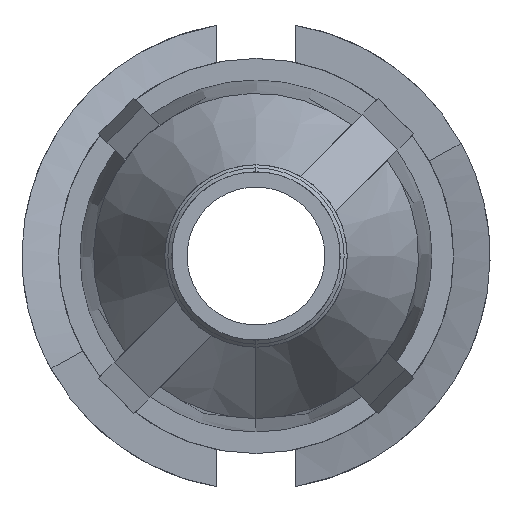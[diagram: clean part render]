
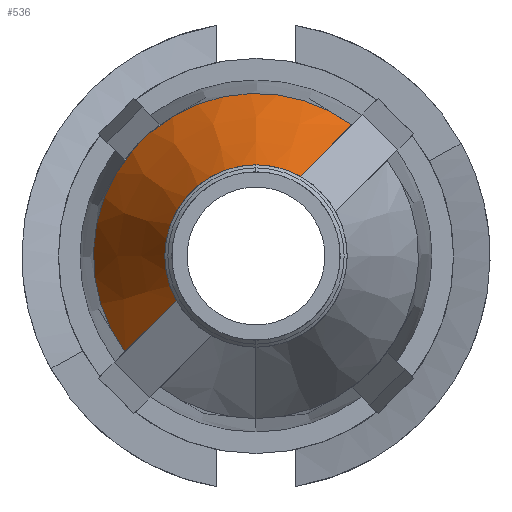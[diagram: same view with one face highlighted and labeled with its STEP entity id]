
A CAD part, left-side view. The second image highlights one B-rep face of the part: STEP entity #536.
In plain terms, the highlighted conical face has half-angle 23.742 degrees and reference radius 2.674 mm.
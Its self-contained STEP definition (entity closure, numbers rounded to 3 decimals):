
#22 = EDGE_CURVE ( 'NONE', #1379, #697, #2575, .T. ) ;
#34 = B_SPLINE_CURVE_WITH_KNOTS ( 'NONE', 3,
 ( #2552, #3067, #2165, #2582 ),
 .UNSPECIFIED., .F., .F.,
 ( 4, 4 ),
 ( 0., 0.003 ),
 .UNSPECIFIED. ) ;
#127 = DIRECTION ( 'NONE',  ( 1., 0., 0. ) ) ;
#311 = CARTESIAN_POINT ( 'NONE',  ( -52.822, 7.806, 20.251 ) ) ;
#350 = CARTESIAN_POINT ( 'NONE',  ( -50.152, 6.228, 22.409 ) ) ;
#364 = CARTESIAN_POINT ( 'NONE',  ( -51.934, 6.789, 21.848 ) ) ;
#382 = FACE_OUTER_BOUND ( 'NONE', #1546, .T. ) ;
#410 = ORIENTED_EDGE ( 'NONE', *, *, #2422, .F. ) ;
#415 = DIRECTION ( 'NONE',  ( 0., 0., -1. ) ) ;
#439 = VERTEX_POINT ( 'NONE', #2097 ) ;
#452 = CARTESIAN_POINT ( 'NONE',  ( -52.822, 7.076, 21.561 ) ) ;
#515 = DIRECTION ( 'NONE',  ( 0., 0., -1. ) ) ;
#536 = ADVANCED_FACE ( 'NONE', ( #382 ), #1675, .T. ) ;
#685 = DIRECTION ( 'NONE',  ( 1., 0., 0. ) ) ;
#697 = VERTEX_POINT ( 'NONE', #452 ) ;
#844 = ORIENTED_EDGE ( 'NONE', *, *, #1763, .T. ) ;
#930 = CIRCLE ( 'NONE', #2656, 2.674 ) ;
#968 = AXIS2_PLACEMENT_3D ( 'NONE', #2874, #2632, #515 ) ;
#1021 = DIRECTION ( 'NONE',  ( 0., 0., -1. ) ) ;
#1211 = ORIENTED_EDGE ( 'NONE', *, *, #1510, .T. ) ;
#1312 = CARTESIAN_POINT ( 'NONE',  ( -51.043, 6.508, 22.129 ) ) ;
#1333 = DIRECTION ( 'NONE',  ( 0., 0., -1. ) ) ;
#1379 = VERTEX_POINT ( 'NONE', #2460 ) ;
#1510 = EDGE_CURVE ( 'NONE', #439, #697, #2296, .T. ) ;
#1546 = EDGE_LOOP ( 'NONE', ( #1915, #410, #2966, #844, #1211 ) ) ;
#1568 = VERTEX_POINT ( 'NONE', #1795 ) ;
#1675 = CONICAL_SURFACE ( 'NONE', #2593, 2.674, 0.414 ) ;
#1690 = CIRCLE ( 'NONE', #2924, 1.5 ) ;
#1763 = EDGE_CURVE ( 'NONE', #1568, #439, #1690, .T. ) ;
#1795 = CARTESIAN_POINT ( 'NONE',  ( -52.822, 9.117, 19.52 ) ) ;
#1796 = CARTESIAN_POINT ( 'NONE',  ( -52.822, 7.076, 21.561 ) ) ;
#1915 = ORIENTED_EDGE ( 'NONE', *, *, #22, .F. ) ;
#2037 = CARTESIAN_POINT ( 'NONE',  ( -50.152, 7.806, 20.251 ) ) ;
#2097 = CARTESIAN_POINT ( 'NONE',  ( -52.822, 7.806, 21.751 ) ) ;
#2133 = CARTESIAN_POINT ( 'NONE',  ( -50.152, 9.965, 18.672 ) ) ;
#2165 = CARTESIAN_POINT ( 'NONE',  ( -51.934, 9.403, 19.233 ) ) ;
#2201 = DIRECTION ( 'NONE',  ( 1., 0., 0. ) ) ;
#2296 = CIRCLE ( 'NONE', #968, 1.5 ) ;
#2422 = EDGE_CURVE ( 'NONE', #2444, #1379, #930, .T. ) ;
#2444 = VERTEX_POINT ( 'NONE', #2133 ) ;
#2460 = CARTESIAN_POINT ( 'NONE',  ( -50.152, 6.228, 22.409 ) ) ;
#2552 = CARTESIAN_POINT ( 'NONE',  ( -50.152, 9.965, 18.672 ) ) ;
#2575 = B_SPLINE_CURVE_WITH_KNOTS ( 'NONE', 3,
 ( #350, #1312, #364, #1796 ),
 .UNSPECIFIED., .F., .F.,
 ( 4, 4 ),
 ( 0., 0.003 ),
 .UNSPECIFIED. ) ;
#2582 = CARTESIAN_POINT ( 'NONE',  ( -52.822, 9.117, 19.52 ) ) ;
#2593 = AXIS2_PLACEMENT_3D ( 'NONE', #2037, #127, #1333 ) ;
#2632 = DIRECTION ( 'NONE',  ( 1., 0., 0. ) ) ;
#2656 = AXIS2_PLACEMENT_3D ( 'NONE', #3076, #685, #415 ) ;
#2730 = EDGE_CURVE ( 'NONE', #2444, #1568, #34, .T. ) ;
#2874 = CARTESIAN_POINT ( 'NONE',  ( -52.822, 7.806, 20.251 ) ) ;
#2924 = AXIS2_PLACEMENT_3D ( 'NONE', #311, #2201, #1021 ) ;
#2966 = ORIENTED_EDGE ( 'NONE', *, *, #2730, .T. ) ;
#3067 = CARTESIAN_POINT ( 'NONE',  ( -51.043, 9.684, 18.952 ) ) ;
#3076 = CARTESIAN_POINT ( 'NONE',  ( -50.152, 7.806, 20.251 ) ) ;
